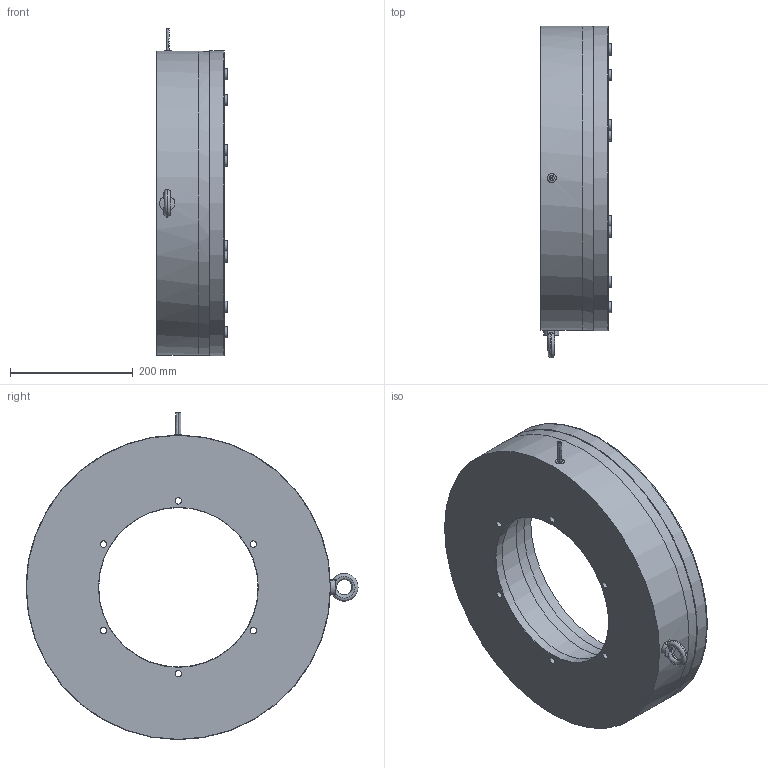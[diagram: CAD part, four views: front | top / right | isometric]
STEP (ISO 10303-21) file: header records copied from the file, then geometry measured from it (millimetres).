
FILE_DESCRIPTION(/* description */ (''),/* implementation_level */ '2;1');
FILE_NAME(/* name */ 'X:\INVENTOR\DISEGNI\08_Freni_Friz_Elettmag_Monodisco\08_28 EMFL_DF\EMFL_DF STEP\08_28_500_11 EMFL500_DF-B@STEP.stp',/* time_stamp */ '2018-04-23T16:12:46+02:00',/* author */ ('stefano'),/* organization */ (''),/* preprocessor_version */ 'ST-DEVELOPER v17',/* originating_system */ 'Autodesk Inventor 2018',/* authorisation */ '');
FILE_SCHEMA (('AUTOMOTIVE_DESIGN { 1 0 10303 214 3 1 1 }'));
Length unit declared in the file: millimetre
Products named in the file (1): 08_28_500_11 EMFL500_DF-B_Substitute_1
Bounding box: 115 x 541.5 x 533.92 mm (x, y, z)
Volume: 12920133.8 mm3; surface area: 1056661.8 mm2
Topology: 4 solids, 4 shells, 444 faces, 1300 edges, 865 vertices
Faces by surface type: cylinder 282, plane 120, cone 35, bspline 7
Full cylindrical faces by diameter (mm): 5 x16, 10.5 x6, 12 x1, 12.1 x8, 18 x16, 20 x16, 260 x1, 302 x2, 315 x1, 324 x1, 368 x1, 458 x1, 496 x2, 497 x2
Entity records: 16793 total; most frequent: CARTESIAN_POINT 3398, DIRECTION 3104, ORIENTED_EDGE 2604, AXIS2_PLACEMENT_3D 1389, EDGE_CURVE 1302, CIRCLE 933, VERTEX_POINT 866, EDGE_LOOP 595
